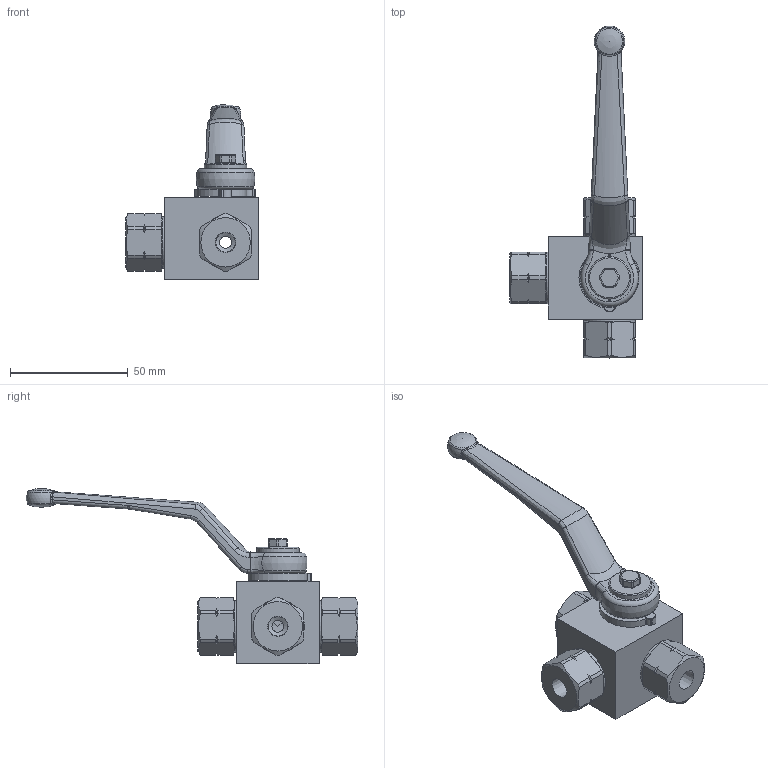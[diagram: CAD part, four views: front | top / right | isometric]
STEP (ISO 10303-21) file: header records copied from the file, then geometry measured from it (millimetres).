
FILE_DESCRIPTION( ( 'Unknown' ), '1' );
FILE_NAME( 'H:/PISTER/3D-MODELLE/BK3-Edelstahl stp/BK3-Edelst DN4 1_8 NPT.stp', 'Unknown', ( 'Unknown' ), ( 'Unknown' ), 'PSStep 14.0', 'Unknown', ' ' );
FILE_SCHEMA( ( 'AUTOMOTIVE_DESIGN { 1 0 10303 214 1 1 1 1 }' ) );
Length unit declared in the file: millimetre
Products named in the file (11): Assem1; 56-032-337-oa5; 09-09-003; 58-28740-16-oa6; 58-0440-009; 04-004-014-oa7; 04-004-014-oa8; 04-004-014-oa9; 06-008-007-oa11; Griff_SW9; 01-008-020-oa12
Assembly tree (10 placements, depth 2):
  Assem1
    56-032-337-oa5
    09-09-003
    58-28740-16-oa6
    58-0440-009
    04-004-014-oa7
    04-004-014-oa8
    04-004-014-oa9
    06-008-007-oa11
    Griff_SW9
    01-008-020-oa12
Bounding box: 56.5 x 141 x 74.4 mm (x, y, z)
Volume: 64924.4 mm3; surface area: 27081.1 mm2
Topology: 10 solids, 10 shells, 410 faces, 1049 edges, 662 vertices
Faces by surface type: cylinder 140, plane 117, cone 79, bspline 36, torus 34, sphere 4
Full cylindrical faces by diameter (mm): 4.134 x1, 4.98 x1, 5 x4, 5.8 x1, 7 x1, 8.306 x3, 14 x2, 17.1 x1, 18 x1, 18.376 x1, 18.5 x1, 20 x1, 20.3 x1, 21 x4, 22 x3, 22.5 x3
Entity records: 17272 total; most frequent: CARTESIAN_POINT 4619, ORIENTED_EDGE 1902, DIRECTION 1875, EDGE_CURVE 951, AXIS2_PLACEMENT_3D 772, VERTEX_POINT 629, EDGE_LOOP 496, FACE_OUTER_BOUND 449
